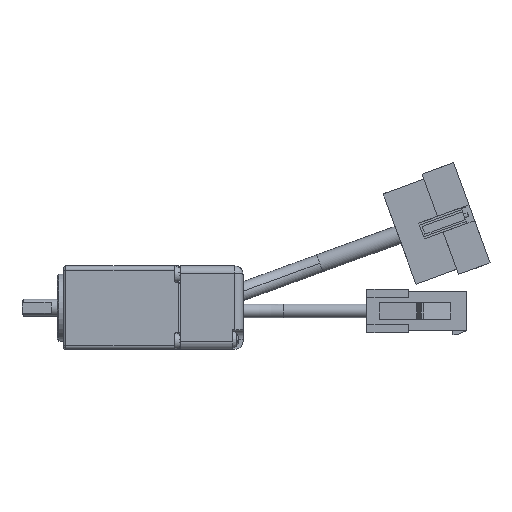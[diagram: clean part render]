
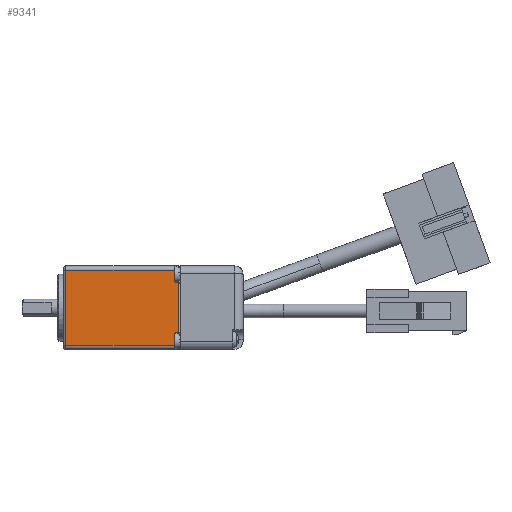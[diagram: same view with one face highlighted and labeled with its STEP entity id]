
A CAD part, front view. The second image highlights one B-rep face of the part: STEP entity #9341.
In plain terms, the highlighted planar face has unit normal (0, -1, 0).
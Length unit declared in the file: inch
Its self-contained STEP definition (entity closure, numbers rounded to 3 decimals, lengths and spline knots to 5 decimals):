
#163=LINE('',#13820,#1053);
#175=LINE('',#13852,#1065);
#176=LINE('',#13853,#1066);
#177=LINE('',#13855,#1067);
#178=LINE('',#13859,#1068);
#179=LINE('',#13861,#1069);
#180=LINE('',#13863,#1070);
#181=LINE('',#13866,#1071);
#1053=VECTOR('',#10964,1.02362);
#1065=VECTOR('',#10988,1.02362);
#1066=VECTOR('',#10989,0.70866);
#1067=VECTOR('',#10990,0.09843);
#1068=VECTOR('',#10993,0.01969);
#1069=VECTOR('',#10994,0.47244);
#1070=VECTOR('',#10995,0.01969);
#1071=VECTOR('',#10998,0.09843);
#2108=FACE_OUTER_BOUND('',#2840,.T.);
#2840=EDGE_LOOP('',(#6275,#6276,#6277,#6278,#6279,#6280,#6281,#6282,#6283,
#6284));
#3516=CIRCLE('',#9935,0.01969);
#3517=CIRCLE('',#9936,0.01969);
#3917=VERTEX_POINT('',#13818);
#3918=VERTEX_POINT('',#13819);
#3931=VERTEX_POINT('',#13850);
#3932=VERTEX_POINT('',#13851);
#3933=VERTEX_POINT('',#13854);
#3934=VERTEX_POINT('',#13856);
#3935=VERTEX_POINT('',#13858);
#3936=VERTEX_POINT('',#13860);
#3937=VERTEX_POINT('',#13862);
#3938=VERTEX_POINT('',#13864);
#4855=EDGE_CURVE('',#3917,#3918,#163,.T.);
#4871=EDGE_CURVE('',#3931,#3932,#175,.T.);
#4872=EDGE_CURVE('',#3931,#3917,#176,.T.);
#4873=EDGE_CURVE('',#3918,#3933,#177,.T.);
#4874=EDGE_CURVE('',#3933,#3934,#3516,.T.);
#4875=EDGE_CURVE('',#3935,#3934,#178,.T.);
#4876=EDGE_CURVE('',#3935,#3936,#179,.T.);
#4877=EDGE_CURVE('',#3937,#3936,#180,.T.);
#4878=EDGE_CURVE('',#3937,#3938,#3517,.T.);
#4879=EDGE_CURVE('',#3932,#3938,#181,.T.);
#6275=ORIENTED_EDGE('',*,*,#4871,.F.);
#6276=ORIENTED_EDGE('',*,*,#4872,.T.);
#6277=ORIENTED_EDGE('',*,*,#4855,.T.);
#6278=ORIENTED_EDGE('',*,*,#4873,.T.);
#6279=ORIENTED_EDGE('',*,*,#4874,.T.);
#6280=ORIENTED_EDGE('',*,*,#4875,.F.);
#6281=ORIENTED_EDGE('',*,*,#4876,.T.);
#6282=ORIENTED_EDGE('',*,*,#4877,.F.);
#6283=ORIENTED_EDGE('',*,*,#4878,.T.);
#6284=ORIENTED_EDGE('',*,*,#4879,.F.);
#8973=PLANE('',#9934);
#9341=ADVANCED_FACE('',(#2108),#8973,.T.);
#9934=AXIS2_PLACEMENT_3D('',#13849,#10986,#10987);
#9935=AXIS2_PLACEMENT_3D('',#13857,#10991,#10992);
#9936=AXIS2_PLACEMENT_3D('',#13865,#10996,#10997);
#10964=DIRECTION('',(1.,0.,0.));
#10986=DIRECTION('center_axis',(0.,-1.,0.));
#10987=DIRECTION('ref_axis',(1.,0.,0.));
#10988=DIRECTION('',(1.,0.,0.));
#10989=DIRECTION('',(0.,0.,-1.));
#10990=DIRECTION('',(0.,0.,1.));
#10991=DIRECTION('center_axis',(0.,1.,0.));
#10992=DIRECTION('ref_axis',(0.,0.,
-1.));
#10993=DIRECTION('',(-1.,0.,0.));
#10994=DIRECTION('',(0.,0.,1.));
#10995=DIRECTION('',(1.,0.,0.));
#10996=DIRECTION('center_axis',(0.,1.,0.));
#10997=DIRECTION('ref_axis',(0.,0.,
1.));
#10998=DIRECTION('',(0.,0.,-1.));
#13818=CARTESIAN_POINT('',(-4.86901,-0.7874,0.03937));
#13819=CARTESIAN_POINT('',(-3.84539,-0.7874,0.03937));
#13820=CARTESIAN_POINT('',(-4.90838,-0.7874,0.03937));
#13849=CARTESIAN_POINT('Origin',(-4.90838,-0.7874,0.74803));
#13850=CARTESIAN_POINT('',(-4.86901,-0.7874,0.74803));
#13851=CARTESIAN_POINT('',(-3.84539,-0.7874,0.74803));
#13852=CARTESIAN_POINT('',(-3.84539,-0.7874,0.74803));
#13853=CARTESIAN_POINT('',(-4.86901,-0.7874,0.74803));
#13854=CARTESIAN_POINT('',(-3.84539,-0.7874,0.1378));
#13855=CARTESIAN_POINT('',(-3.84539,-0.7874,0.74803));
#13856=CARTESIAN_POINT('',(-3.8257,-0.7874,0.15748));
#13857=CARTESIAN_POINT('Origin',(-3.8257,-0.7874,0.1378));
#13858=CARTESIAN_POINT('',(-3.80602,-0.7874,0.15748));
#13859=CARTESIAN_POINT('',(-3.8257,-0.7874,0.15748));
#13860=CARTESIAN_POINT('',(-3.80602,-0.7874,0.62992));
#13861=CARTESIAN_POINT('',(-3.80602,-0.7874,0.74803));
#13862=CARTESIAN_POINT('',(-3.8257,-0.7874,0.62992));
#13863=CARTESIAN_POINT('',(-3.8257,-0.7874,0.62992));
#13864=CARTESIAN_POINT('',(-3.84539,-0.7874,0.64961));
#13865=CARTESIAN_POINT('Origin',(-3.8257,-0.7874,0.64961));
#13866=CARTESIAN_POINT('',(-3.84539,-0.7874,0.64961));
